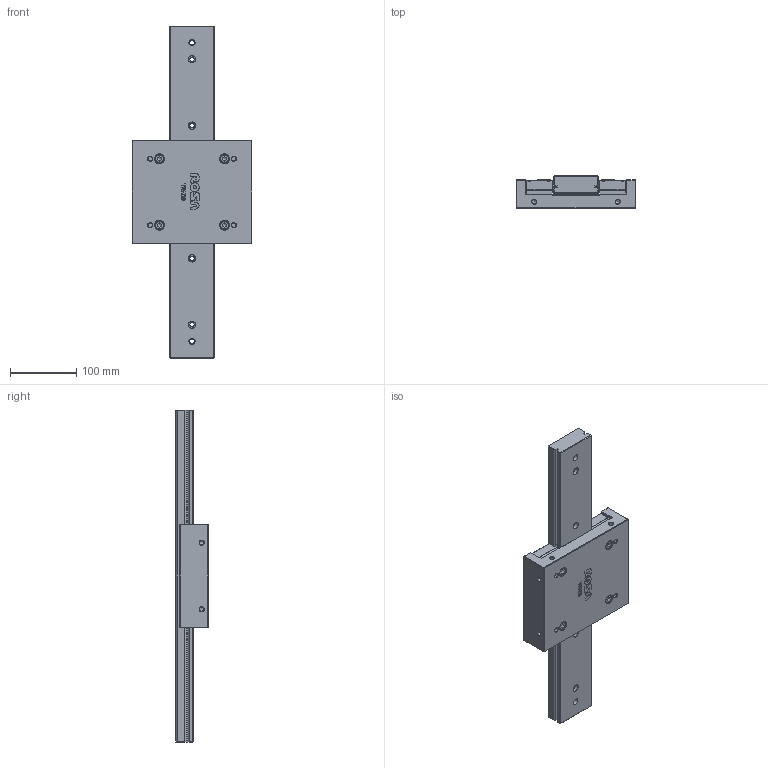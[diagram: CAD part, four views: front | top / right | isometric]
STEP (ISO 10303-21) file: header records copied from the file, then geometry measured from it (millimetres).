
FILE_DESCRIPTION(/* description */ ('TAVOLA TRKD09 L= 500 mm'),/* implementation_level */ '2;1');
FILE_NAME(/* name */ 'TRKD090500-00.stp',/* time_stamp */ '2024-01-30T11:27:28+01:00',/* author */ ('Rosa sistemi'),/* organization */ (''),/* preprocessor_version */ 'ST-DEVELOPER v20',/* originating_system */ 'Autodesk Inventor 2024',/* authorisation */ '');
FILE_SCHEMA (('AUTOMOTIVE_DESIGN { 1 0 10303 214 3 1 1 }'));
Length unit declared in the file: millimetre
Products named in the file (2): TRKD090500-00; TRKD090500-00_1
Assembly tree (1 placements, depth 2):
  TRKD090500-00
    TRKD090500-00_1
Bounding box: 180 x 49 x 500 mm (x, y, z)
Volume: 1767535.8 mm3; surface area: 244626.3 mm2
Topology: 22 solids, 22 shells, 699 faces, 1781 edges, 1130 vertices
Faces by surface type: plane 427, cone 98, cylinder 89, bspline 31, sphere 30, torus 24
Full cylindrical faces by diameter (mm): 2 x2, 4.134 x4, 4.823 x1, 6 x8, 6.647 x21, 7 x2, 8 x1, 9 x3, 10.5 x9, 13 x4, 13.263 x1, 14 x4
Entity records: 22182 total; most frequent: CARTESIAN_POINT 4870, ORIENTED_EDGE 3418, DIRECTION 3345, EDGE_CURVE 1709, AXIS2_PLACEMENT_3D 1151, VERTEX_POINT 1130, LINE 1043, VECTOR 1043
